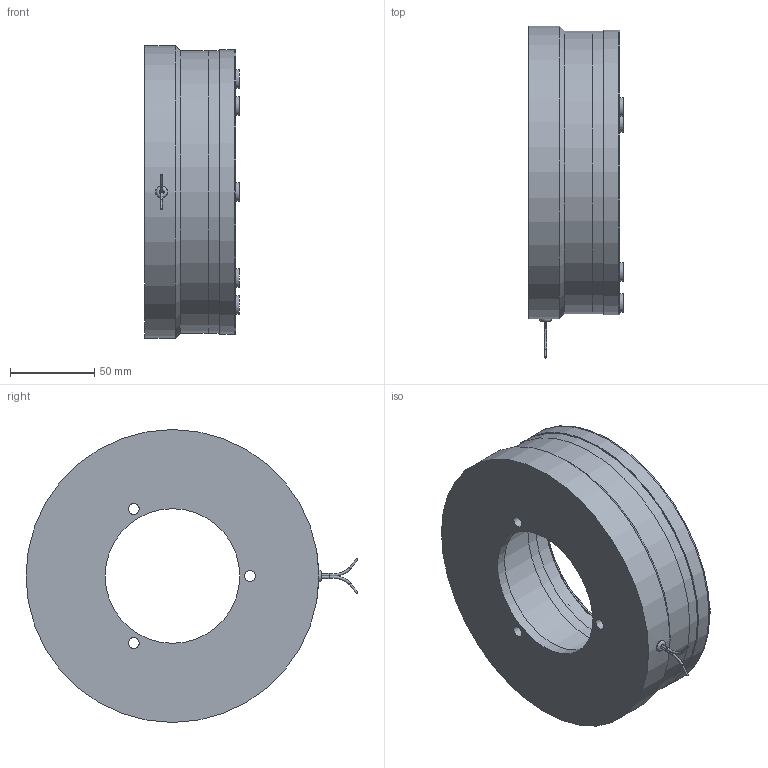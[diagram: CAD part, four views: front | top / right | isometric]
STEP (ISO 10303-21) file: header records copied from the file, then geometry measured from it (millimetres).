
FILE_DESCRIPTION(/* description */ (''),/* implementation_level */ '2;1');
FILE_NAME(/* name */ 'X:\INVENTOR\DISEGNI\08_Freni_Friz_Elettmag_Monodisco\08_28 EMFL_DF\EMFL_DF STEP\08_28_170_11 EMFL170_DF-B@STEP.stp',/* time_stamp */ '2018-04-23T15:59:14+02:00',/* author */ ('stefano'),/* organization */ (''),/* preprocessor_version */ 'ST-DEVELOPER v17',/* originating_system */ 'Autodesk Inventor 2018',/* authorisation */ '');
FILE_SCHEMA (('AUTOMOTIVE_DESIGN { 1 0 10303 214 3 1 1 }'));
Length unit declared in the file: millimetre
Products named in the file (1): 08_28_170_11 EMFL170_DF-B_Substitute_1
Bounding box: 56 x 197.22 x 174 mm (x, y, z)
Volume: 754282.4 mm3; surface area: 142156.6 mm2
Topology: 2 solids, 2 shells, 200 faces, 618 edges, 416 vertices
Faces by surface type: cylinder 137, plane 46, cone 13, torus 2, bspline 2
Full cylindrical faces by diameter (mm): 1.154 x2, 1.5 x1, 6 x1, 6.1 x3, 6.5 x3, 11 x12, 80 x1, 104 x2, 105 x1, 106 x1, 122 x1, 155 x1, 168 x2, 169 x2, 174 x1
Entity records: 7922 total; most frequent: CARTESIAN_POINT 1552, DIRECTION 1444, ORIENTED_EDGE 1238, AXIS2_PLACEMENT_3D 643, EDGE_CURVE 619, CIRCLE 444, VERTEX_POINT 417, EDGE_LOOP 274
